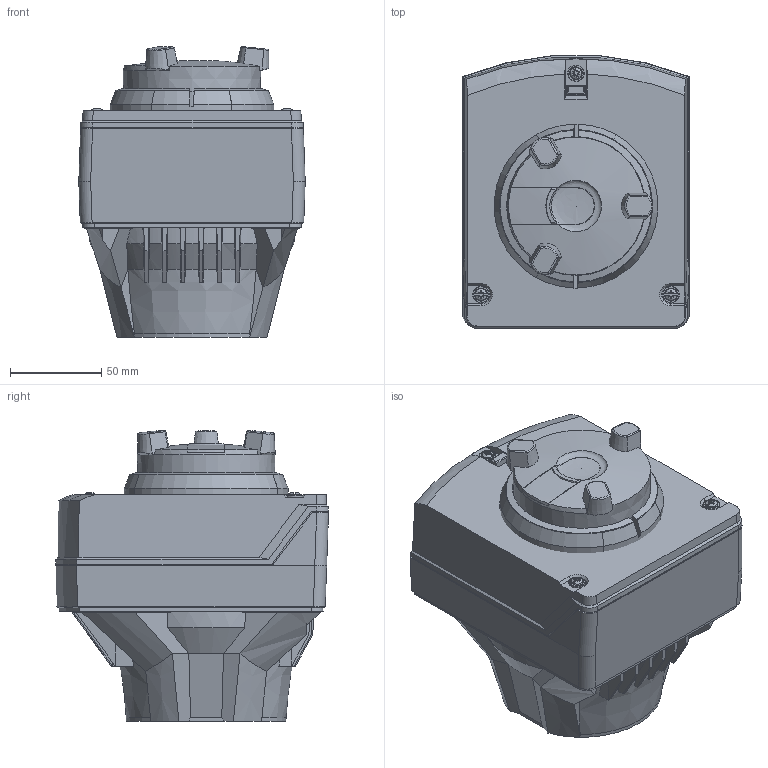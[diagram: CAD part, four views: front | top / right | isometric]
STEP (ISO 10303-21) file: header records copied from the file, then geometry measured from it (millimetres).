
FILE_DESCRIPTION(/* description */ (''),/* implementation_level */ '2;1');
FILE_NAME(/* name */ 'mod2stp',/* time_stamp */ '2010-11-02T09:07:12+01:00',/* author */ (''),/* organization */ (''),/* preprocessor_version */ 'ST-DEVELOPER v11',/* originating_system */ 'SIEMENS UGS NX 6.0',/* authorisation */ '');
FILE_SCHEMA (('AUTOMOTIVE_DESIGN { 1 0 10303 214 1 1 1 1 }'));
Length unit declared in the file: millimetre
Products named in the file (1): rollC7F58yua
Bounding box: 124 x 149.51 x 159.28 mm (x, y, z)
Volume: 1862108.2 mm3; surface area: 207868.5 mm2
Topology: 10 solids, 12 shells, 799 faces, 2119 edges, 1341 vertices
Faces by surface type: plane 393, cylinder 126, cone 119, bspline 75, torus 64, sphere 15, extrusion 4, revolution 3
Full cylindrical faces by diameter (mm): 9 x3
Entity records: 33143 total; most frequent: CARTESIAN_POINT 8482, ORIENTED_EDGE 4176, DIRECTION 3764, EDGE_CURVE 2088, AXIS2_PLACEMENT_3D 1448, VERTEX_POINT 1334, VECTOR 865, LINE 861
